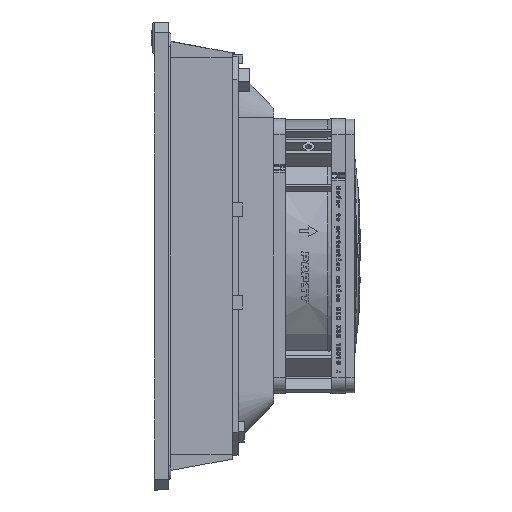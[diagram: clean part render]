
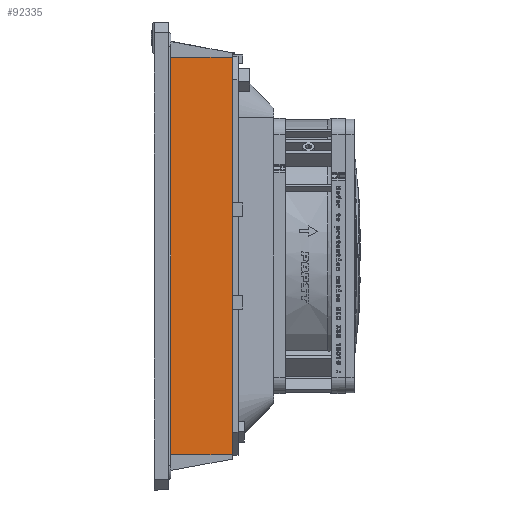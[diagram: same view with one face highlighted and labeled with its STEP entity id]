
A CAD part, left-side view. The second image highlights one B-rep face of the part: STEP entity #92335.
In plain terms, the highlighted planar face has unit normal (-1, 0, 0).
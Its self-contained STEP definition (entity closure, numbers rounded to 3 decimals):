
#3946 = CARTESIAN_POINT ( 'NONE',  ( -87.5, 51.869, -86. ) ) ;
#6733 = DIRECTION ( 'NONE',  ( 0., 0., -1. ) ) ;
#14492 = EDGE_CURVE ( 'NONE', #90658, #15445, #95407, .T. ) ;
#14688 = ORIENTED_EDGE ( 'NONE', *, *, #127192, .T. ) ;
#15445 = VERTEX_POINT ( 'NONE', #145828 ) ;
#19910 = CARTESIAN_POINT ( 'NONE',  ( -87.5, 51.869, 86. ) ) ;
#24752 = EDGE_CURVE ( 'NONE', #15445, #39042, #83800, .T. ) ;
#28650 = DIRECTION ( 'NONE',  ( -1., 0., 0. ) ) ;
#30626 = AXIS2_PLACEMENT_3D ( 'NONE', #76097, #28650, #111948 ) ;
#31951 = ORIENTED_EDGE ( 'NONE', *, *, #39249, .T. ) ;
#39042 = VERTEX_POINT ( 'NONE', #70237 ) ;
#39249 = EDGE_CURVE ( 'NONE', #93445, #39042, #39718, .T. ) ;
#39718 = LINE ( 'NONE', #3946, #103087 ) ;
#45799 = VECTOR ( 'NONE', #67789, 1000. ) ;
#49532 = LINE ( 'NONE', #56302, #45799 ) ;
#55899 = DIRECTION ( 'NONE',  ( 0., -1., 0. ) ) ;
#56302 = CARTESIAN_POINT ( 'NONE',  ( -87.5, 28., 87.5 ) ) ;
#63710 = VECTOR ( 'NONE', #55899, 1000. ) ;
#67789 = DIRECTION ( 'NONE',  ( 0., 0., -1. ) ) ;
#70237 = CARTESIAN_POINT ( 'NONE',  ( -87.5, 0., -86. ) ) ;
#76097 = CARTESIAN_POINT ( 'NONE',  ( -87.5, 309.1, 87.5 ) ) ;
#80065 = VECTOR ( 'NONE', #6733, 1000. ) ;
#83800 = LINE ( 'NONE', #90104, #80065 ) ;
#87299 = DIRECTION ( 'NONE',  ( 0., -1., 0. ) ) ;
#90104 = CARTESIAN_POINT ( 'NONE',  ( -87.5, 0., 87.5 ) ) ;
#90654 = FACE_OUTER_BOUND ( 'NONE', #151536, .T. ) ;
#90658 = VERTEX_POINT ( 'NONE', #107728 ) ;
#92335 = ADVANCED_FACE ( 'NONE', ( #90654 ), #100098, .T. ) ;
#93445 = VERTEX_POINT ( 'NONE', #101044 ) ;
#94623 = ORIENTED_EDGE ( 'NONE', *, *, #24752, .F. ) ;
#95407 = LINE ( 'NONE', #19910, #63710 ) ;
#100098 = PLANE ( 'NONE',  #30626 ) ;
#101044 = CARTESIAN_POINT ( 'NONE',  ( -87.5, 28., -86. ) ) ;
#103087 = VECTOR ( 'NONE', #87299, 1000. ) ;
#107728 = CARTESIAN_POINT ( 'NONE',  ( -87.5, 28., 86. ) ) ;
#111948 = DIRECTION ( 'NONE',  ( 0., 0., 1. ) ) ;
#127192 = EDGE_CURVE ( 'NONE', #90658, #93445, #49532, .T. ) ;
#145828 = CARTESIAN_POINT ( 'NONE',  ( -87.5, 0., 86. ) ) ;
#145841 = ORIENTED_EDGE ( 'NONE', *, *, #14492, .F. ) ;
#151536 = EDGE_LOOP ( 'NONE', ( #94623, #145841, #14688, #31951 ) ) ;
